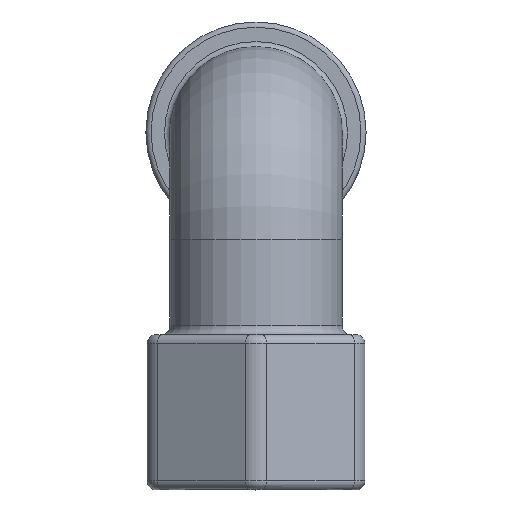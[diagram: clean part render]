
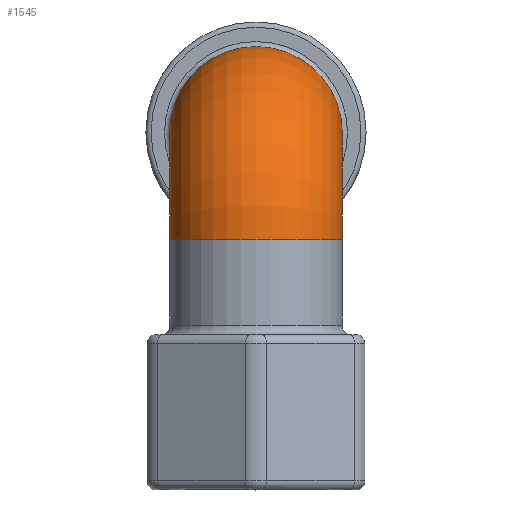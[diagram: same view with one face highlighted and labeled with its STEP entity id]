
A CAD part, top view. The second image highlights one B-rep face of the part: STEP entity #1545.
In plain terms, the highlighted toroidal (fillet/blend) face has major radius 15.621 mm and minor radius 12.573 mm.
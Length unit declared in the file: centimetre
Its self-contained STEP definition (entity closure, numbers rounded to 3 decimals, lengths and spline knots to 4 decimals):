
#434=VERTEX_POINT('',#2290);
#504=VERTEX_POINT('',#24646);
#570=CIRCLE('',#1635,1.2573);
#581=CIRCLE('',#1690,1.2573);
#683=EDGE_CURVE('',#434,#434,#570,.T.);
#789=EDGE_CURVE('',#504,#504,#581,.T.);
#1215=ORIENTED_EDGE('',*,*,#683,.T.);
#1216=ORIENTED_EDGE('',*,*,#789,.T.);
#1332=EDGE_LOOP('',(#1215));
#1333=EDGE_LOOP('',(#1216));
#1449=FACE_BOUND('',#1332,.T.);
#1450=FACE_BOUND('',#1333,.T.);
#1545=ADVANCED_FACE('',(#1449,#1450),#24732,.T.);
#1635=AXIS2_PLACEMENT_3D('',#2289,#1905,#1906);
#1690=AXIS2_PLACEMENT_3D('',#24645,#2041,#2042);
#1712=AXIS2_PLACEMENT_3D('',#24713,#2082,$);
#1905=DIRECTION('',(0.,1.,0.));
#1906=DIRECTION('',(1.257,0.,0.));
#2041=DIRECTION('',(0.,0.,1.));
#2042=DIRECTION('',(1.257,0.,0.));
#2082=DIRECTION('',(1.,0.,0.));
#2289=CARTESIAN_POINT('',(0.,-1.5621,1.5621));
#2290=CARTESIAN_POINT('',(1.2573,-1.5621,1.5621));
#24645=CARTESIAN_POINT('',(0.,0.,0.));
#24646=CARTESIAN_POINT('',(1.2573,0.,0.));
#24713=CARTESIAN_POINT('',(0.,-1.5621,0.));
#24732=TOROIDAL_SURFACE('',#1712,1.5621,1.2573);
